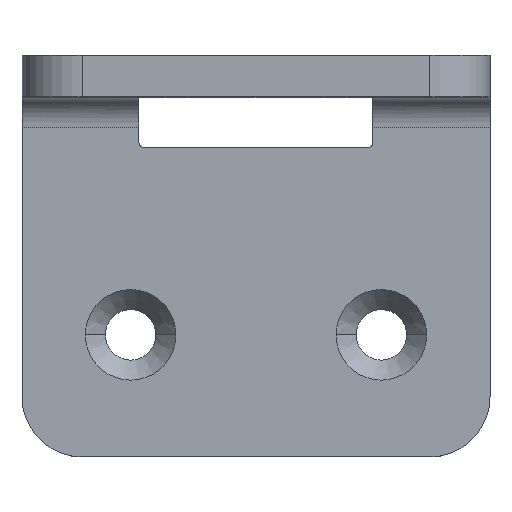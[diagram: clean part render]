
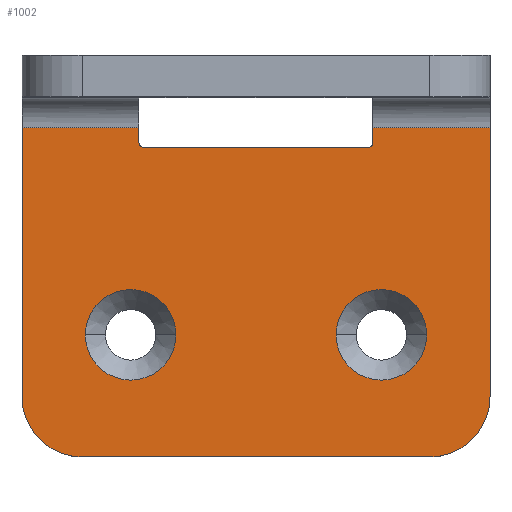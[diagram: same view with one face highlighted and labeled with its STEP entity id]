
A CAD part, top view. The second image highlights one B-rep face of the part: STEP entity #1002.
In plain terms, the highlighted planar face has unit normal (0, 0, 1).
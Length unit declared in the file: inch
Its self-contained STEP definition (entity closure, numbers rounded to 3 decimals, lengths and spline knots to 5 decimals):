
#10=DIRECTION('',(0.,-1.,0.));
#11=VECTOR('',#10,0.805);
#12=CARTESIAN_POINT('',(-0.7,-0.09,0.));
#13=LINE('',#12,#11);
#225=CARTESIAN_POINT('',(0.375,-0.71,0.));
#226=DIRECTION('',(0.,0.,-1.));
#227=DIRECTION('',(1.,0.,0.));
#228=AXIS2_PLACEMENT_3D('',#225,#226,#227);
#230=CARTESIAN_POINT('',(0.375,-0.71,0.));
#231=DIRECTION('',(0.,0.,-1.));
#232=DIRECTION('',(-1.,0.,0.));
#233=AXIS2_PLACEMENT_3D('',#230,#231,#232);
#235=CARTESIAN_POINT('',(-0.375,-0.71,0.));
#236=DIRECTION('',(0.,0.,-1.));
#237=DIRECTION('',(1.,0.,0.));
#238=AXIS2_PLACEMENT_3D('',#235,#236,#237);
#240=CARTESIAN_POINT('',(-0.375,-0.71,0.));
#241=DIRECTION('',(0.,0.,-1.));
#242=DIRECTION('',(-1.,0.,0.));
#243=AXIS2_PLACEMENT_3D('',#240,#241,#242);
#245=DIRECTION('',(0.,-1.,0.));
#246=VECTOR('',#245,0.045);
#247=CARTESIAN_POINT('',(-0.35,-0.09,0.));
#248=LINE('',#247,#246);
#249=DIRECTION('',(-1.,0.,0.));
#250=VECTOR('',#249,0.67);
#251=CARTESIAN_POINT('',(0.335,-0.15,0.));
#252=LINE('',#251,#250);
#253=DIRECTION('',(0.,-1.,0.));
#254=VECTOR('',#253,0.045);
#255=CARTESIAN_POINT('',(0.35,-0.09,0.));
#256=LINE('',#255,#254);
#301=CARTESIAN_POINT('',(-0.335,-0.135,0.));
#302=DIRECTION('',(0.,0.,-1.));
#303=DIRECTION('',(0.,-1.,0.));
#304=AXIS2_PLACEMENT_3D('',#301,#302,#303);
#319=CARTESIAN_POINT('',(0.335,-0.135,0.));
#320=DIRECTION('',(0.,0.,-1.));
#321=DIRECTION('',(1.,0.,0.));
#322=AXIS2_PLACEMENT_3D('',#319,#320,#321);
#359=DIRECTION('',(1.,0.,0.));
#360=VECTOR('',#359,0.35);
#361=CARTESIAN_POINT('',(-0.7,-0.09,0.));
#362=LINE('',#361,#360);
#382=DIRECTION('',(1.,0.,0.));
#383=VECTOR('',#382,0.35);
#384=CARTESIAN_POINT('',(0.35,-0.09,0.));
#385=LINE('',#384,#383);
#398=DIRECTION('',(0.,-1.,0.));
#399=VECTOR('',#398,0.805);
#400=CARTESIAN_POINT('',(0.7,-0.09,0.));
#401=LINE('',#400,#399);
#431=CARTESIAN_POINT('',(0.52,-0.895,0.));
#432=DIRECTION('',(0.,0.,-1.));
#433=DIRECTION('',(1.,0.,0.));
#434=AXIS2_PLACEMENT_3D('',#431,#432,#433);
#436=DIRECTION('',(1.,0.,0.));
#437=VECTOR('',#436,1.04);
#438=CARTESIAN_POINT('',(-0.52,-1.075,0.));
#439=LINE('',#438,#437);
#444=CARTESIAN_POINT('',(-0.52,-0.895,0.));
#445=DIRECTION('',(0.,0.,1.));
#446=DIRECTION('',(-1.,0.,0.));
#447=AXIS2_PLACEMENT_3D('',#444,#445,#446);
#518=CARTESIAN_POINT('',(-0.7,-0.09,0.));
#520=VERTEX_POINT('',#518);
#522=CARTESIAN_POINT('',(0.7,-0.09,0.));
#524=VERTEX_POINT('',#522);
#534=CARTESIAN_POINT('',(-0.7,-0.895,0.));
#536=VERTEX_POINT('',#534);
#538=CARTESIAN_POINT('',(-0.52,-1.075,0.));
#540=VERTEX_POINT('',#538);
#542=CARTESIAN_POINT('',(0.7,-0.895,0.));
#544=VERTEX_POINT('',#542);
#546=CARTESIAN_POINT('',(0.52,-1.075,0.));
#548=VERTEX_POINT('',#546);
#574=CARTESIAN_POINT('',(0.5105,-0.71,0.));
#575=CARTESIAN_POINT('',(0.2395,-0.71,0.));
#576=VERTEX_POINT('',#574);
#577=VERTEX_POINT('',#575);
#582=CARTESIAN_POINT('',(-0.2395,-0.71,0.));
#583=CARTESIAN_POINT('',(-0.5105,-0.71,0.));
#584=VERTEX_POINT('',#582);
#585=VERTEX_POINT('',#583);
#590=CARTESIAN_POINT('',(-0.35,-0.09,0.));
#591=VERTEX_POINT('',#590);
#592=CARTESIAN_POINT('',(0.35,-0.09,0.));
#593=VERTEX_POINT('',#592);
#639=CARTESIAN_POINT('',(0.335,-0.15,0.));
#641=VERTEX_POINT('',#639);
#643=CARTESIAN_POINT('',(0.35,-0.135,0.));
#645=VERTEX_POINT('',#643);
#647=CARTESIAN_POINT('',(-0.35,-0.135,0.));
#649=VERTEX_POINT('',#647);
#651=CARTESIAN_POINT('',(-0.335,-0.15,0.));
#653=VERTEX_POINT('',#651);
#962=CARTESIAN_POINT('',(-0.7,0.,0.));
#963=DIRECTION('',(0.,0.,1.));
#964=DIRECTION('',(0.,-1.,0.));
#965=AXIS2_PLACEMENT_3D('',#962,#963,#964);
#966=PLANE('',#965);
#967=ORIENTED_EDGE('',*,*,#885,.T.);
#969=ORIENTED_EDGE('',*,*,#968,.F.);
#971=ORIENTED_EDGE('',*,*,#970,.F.);
#973=ORIENTED_EDGE('',*,*,#972,.F.);
#975=ORIENTED_EDGE('',*,*,#974,.F.);
#977=ORIENTED_EDGE('',*,*,#976,.T.);
#979=ORIENTED_EDGE('',*,*,#978,.T.);
#981=ORIENTED_EDGE('',*,*,#980,.T.);
#983=ORIENTED_EDGE('',*,*,#982,.F.);
#985=ORIENTED_EDGE('',*,*,#984,.F.);
#986=ORIENTED_EDGE('',*,*,#665,.F.);
#988=ORIENTED_EDGE('',*,*,#987,.T.);
#989=EDGE_LOOP('',(#967,#969,#971,#973,#975,#977,#979,#981,#983,#985,#986,
#988));
#990=FACE_OUTER_BOUND('',#989,.F.);
#992=ORIENTED_EDGE('',*,*,#991,.F.);
#993=ORIENTED_EDGE('',*,*,#952,.F.);
#994=EDGE_LOOP('',(#992,#993));
#995=FACE_BOUND('',#994,.F.);
#997=ORIENTED_EDGE('',*,*,#996,.F.);
#999=ORIENTED_EDGE('',*,*,#998,.F.);
#1000=EDGE_LOOP('',(#997,#999));
#1001=FACE_BOUND('',#1000,.F.);
#1002=ADVANCED_FACE('',(#990,#995,#1001),#966,.T.);
#229=CIRCLE('',#228,0.1355);
#234=CIRCLE('',#233,0.1355);
#239=CIRCLE('',#238,0.1355);
#244=CIRCLE('',#243,0.1355);
#305=CIRCLE('',#304,0.015);
#323=CIRCLE('',#322,0.015);
#435=CIRCLE('',#434,0.18);
#448=CIRCLE('',#447,0.18);
#665=EDGE_CURVE('',#520,#536,#13,.T.);
#885=EDGE_CURVE('',#591,#649,#248,.T.);
#952=EDGE_CURVE('',#585,#584,#244,.T.);
#968=EDGE_CURVE('',#653,#649,#305,.T.);
#970=EDGE_CURVE('',#641,#653,#252,.T.);
#972=EDGE_CURVE('',#645,#641,#323,.T.);
#974=EDGE_CURVE('',#593,#645,#256,.T.);
#976=EDGE_CURVE('',#593,#524,#385,.T.);
#978=EDGE_CURVE('',#524,#544,#401,.T.);
#980=EDGE_CURVE('',#544,#548,#435,.T.);
#982=EDGE_CURVE('',#540,#548,#439,.T.);
#984=EDGE_CURVE('',#536,#540,#448,.T.);
#987=EDGE_CURVE('',#520,#591,#362,.T.);
#991=EDGE_CURVE('',#584,#585,#239,.T.);
#996=EDGE_CURVE('',#576,#577,#229,.T.);
#998=EDGE_CURVE('',#577,#576,#234,.T.);
